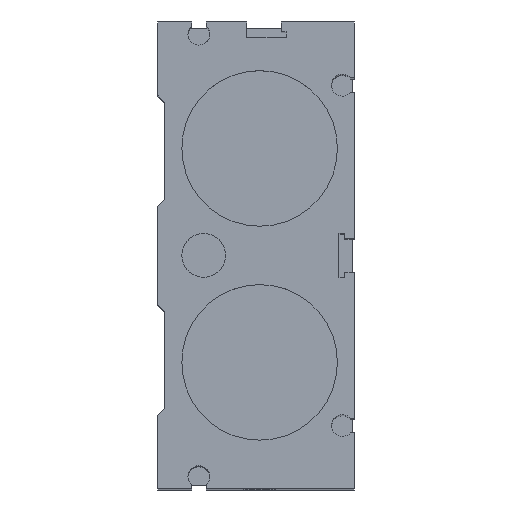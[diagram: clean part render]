
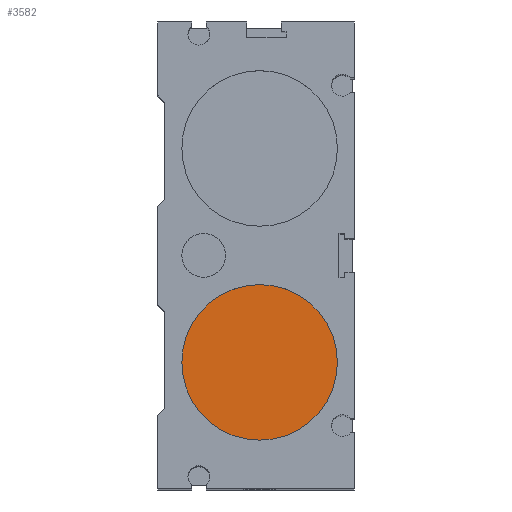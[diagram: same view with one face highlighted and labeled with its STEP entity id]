
A CAD part, top view. The second image highlights one B-rep face of the part: STEP entity #3582.
In plain terms, the highlighted planar face has unit normal (0, 0, 1).
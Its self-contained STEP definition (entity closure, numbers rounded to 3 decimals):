
#3551=CARTESIAN_POINT('',(16.0,-22.0,238.0));
#3552=VERTEX_POINT('',#3551);
#3553=CARTESIAN_POINT('',(0.,-22.0,238.0));
#3554=DIRECTION('',(0.0,0.0,1.0));
#3555=DIRECTION('',(-1.0,0.0,0.0));
#3556=AXIS2_PLACEMENT_3D('',#3553,#3554,#3555);
#3557=CIRCLE('',#3556,16.0);
#3558=EDGE_CURVE('',#3552,#3552,#3557,.T.);
#3574=CARTESIAN_POINT('',(0.,-22.0,238.0));
#3575=DIRECTION('',(0.0,0.0,-1.0));
#3576=DIRECTION('',(-1.0,0.0,0.0));
#3577=AXIS2_PLACEMENT_3D('',#3574,#3575,#3576);
#3578=PLANE('',#3577);
#3579=ORIENTED_EDGE('',*,*,#3558,.T.);
#3580=EDGE_LOOP('',(#3579));
#3581=FACE_OUTER_BOUND('',#3580,.T.);
#3582=ADVANCED_FACE('',(#3581),#3578,.F.);
